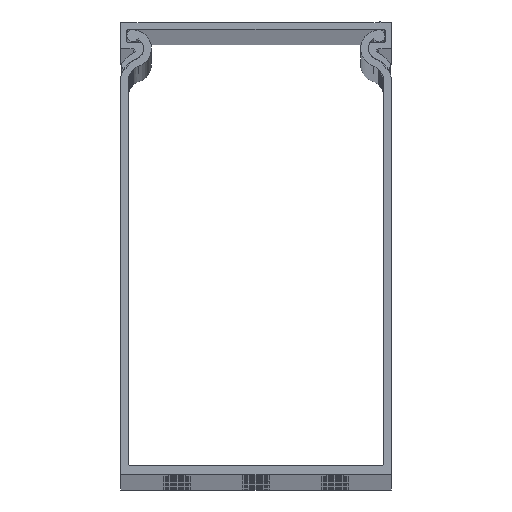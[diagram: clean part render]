
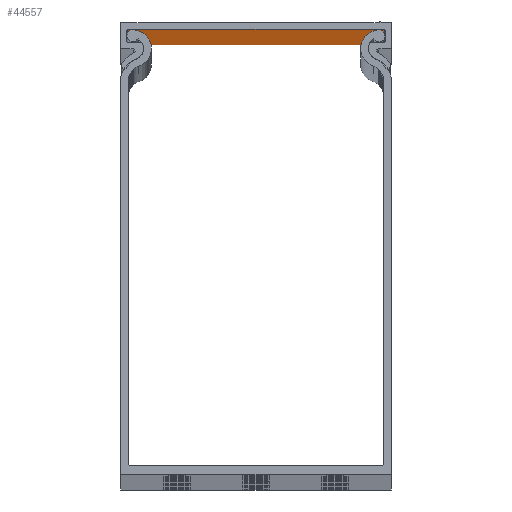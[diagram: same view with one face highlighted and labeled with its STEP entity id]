
A CAD part, top view. The second image highlights one B-rep face of the part: STEP entity #44557.
In plain terms, the highlighted planar face has unit normal (0, -1, 0).
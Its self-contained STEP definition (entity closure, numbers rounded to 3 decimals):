
#5471 = PLANE ( 'NONE',  #10328 ) ;
#9327 = LINE ( 'NONE', #33282, #30119 ) ;
#10328 = AXIS2_PLACEMENT_3D ( 'NONE', #28992, #47920, #23196 ) ;
#11726 = DIRECTION ( 'NONE',  ( 0., 0., -1. ) ) ;
#20325 = VERTEX_POINT ( 'NONE', #73779 ) ;
#23196 = DIRECTION ( 'NONE',  ( 0., 0., 1. ) ) ;
#24531 = VECTOR ( 'NONE', #11726, 1000. ) ;
#25450 = CARTESIAN_POINT ( 'NONE',  ( 2540.007, 1295.656, 2000. ) ) ;
#28909 = CARTESIAN_POINT ( 'NONE',  ( 2540.007, 1295.656, 0. ) ) ;
#28992 = CARTESIAN_POINT ( 'NONE',  ( 2568.407, 1295.656, 2000. ) ) ;
#29326 = VECTOR ( 'NONE', #56433, 1000. ) ;
#30119 = VECTOR ( 'NONE', #57456, 1000. ) ;
#32844 = ORIENTED_EDGE ( 'NONE', *, *, #62150, .T. ) ;
#33282 = CARTESIAN_POINT ( 'NONE',  ( 2568.407, 1295.656, 0. ) ) ;
#38647 = LINE ( 'NONE', #76067, #60338 ) ;
#40494 = LINE ( 'NONE', #71841, #24531 ) ;
#40617 = VERTEX_POINT ( 'NONE', #25450 ) ;
#40701 = DIRECTION ( 'NONE',  ( 1., 0., 0. ) ) ;
#43860 = EDGE_LOOP ( 'NONE', ( #62526, #44265, #64068, #32844 ) ) ;
#44265 = ORIENTED_EDGE ( 'NONE', *, *, #60044, .F. ) ;
#44419 = LINE ( 'NONE', #75459, #29326 ) ;
#44557 = ADVANCED_FACE ( 'NONE', ( #56594 ), #5471, .F. ) ;
#47920 = DIRECTION ( 'NONE',  ( 0., 1., 0. ) ) ;
#52945 = EDGE_CURVE ( 'NONE', #40617, #72697, #38647, .T. ) ;
#53424 = EDGE_CURVE ( 'NONE', #58784, #20325, #9327, .T. ) ;
#56433 = DIRECTION ( 'NONE',  ( 0., 0., -1. ) ) ;
#56594 = FACE_OUTER_BOUND ( 'NONE', #43860, .T. ) ;
#57456 = DIRECTION ( 'NONE',  ( 1., 0., 0. ) ) ;
#58784 = VERTEX_POINT ( 'NONE', #28909 ) ;
#60044 = EDGE_CURVE ( 'NONE', #72697, #20325, #40494, .T. ) ;
#60338 = VECTOR ( 'NONE', #40701, 1000. ) ;
#62150 = EDGE_CURVE ( 'NONE', #40617, #58784, #44419, .T. ) ;
#62526 = ORIENTED_EDGE ( 'NONE', *, *, #53424, .T. ) ;
#64068 = ORIENTED_EDGE ( 'NONE', *, *, #52945, .F. ) ;
#64161 = CARTESIAN_POINT ( 'NONE',  ( 2596.807, 1295.656, 2000. ) ) ;
#71841 = CARTESIAN_POINT ( 'NONE',  ( 2596.807, 1295.656, 2000. ) ) ;
#72697 = VERTEX_POINT ( 'NONE', #64161 ) ;
#73779 = CARTESIAN_POINT ( 'NONE',  ( 2596.807, 1295.656, 0. ) ) ;
#75459 = CARTESIAN_POINT ( 'NONE',  ( 2540.007, 1295.656, 2000. ) ) ;
#76067 = CARTESIAN_POINT ( 'NONE',  ( 2568.407, 1295.656, 2000. ) ) ;
